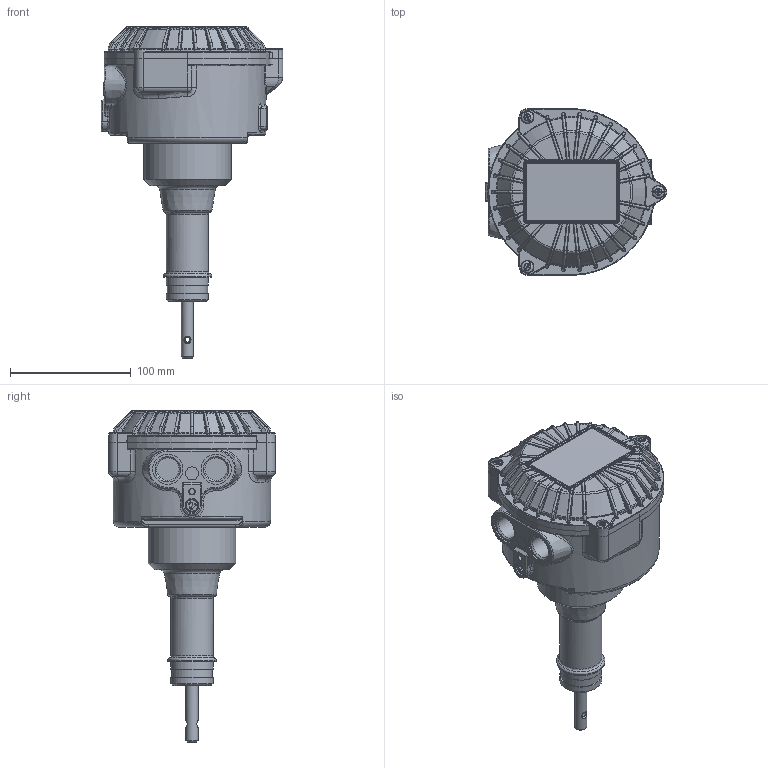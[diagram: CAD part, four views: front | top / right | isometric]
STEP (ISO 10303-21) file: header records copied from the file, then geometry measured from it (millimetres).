
FILE_DESCRIPTION(/* description */ (''),/* implementation_level */ '2;1');
FILE_NAME(/* name */ '\\SRVGEST\camlogic\TEMP\Kulwant S\2_STEP\2_STEP\PFG05\PFG-05.stp',/* time_stamp */ '2021-06-09T17:55:45+02:00',/* author */ ('kulwant.singh'),/* organization */ (''),/* preprocessor_version */ 'ST-DEVELOPER v18.1',/* originating_system */ 'Autodesk Inventor 2022',/* authorisation */ '');
FILE_SCHEMA (('AUTOMOTIVE_DESIGN { 1 0 10303 214 3 1 1 }'));
Products named in the file (1): PFG-05
Bounding box: 150.5 x 138 x 274.7 mm (x, y, z)
Volume: 1498966.8 mm3; surface area: 97546.8 mm2
Topology: 1 solids, 1 shells, 1986 faces, 4632 edges, 2658 vertices
Faces by surface type: bspline 695, cylinder 407, plane 340, torus 229, cone 199, sphere 116
Full cylindrical faces by diameter (mm): 4.134 x1, 4.65 x1, 10 x5, 10.5 x1, 10.75 x1, 10.8 x3, 14.2 x1, 18.631 x2, 23.5 x1, 25 x2, 26 x1, 27 x1, 33.5 x1, 34.8 x3, 40 x1, 72.226 x1
Entity records: 78801 total; most frequent: CARTESIAN_POINT 35627, ORIENTED_EDGE 9234, DIRECTION 7708, EDGE_CURVE 4617, AXIS2_PLACEMENT_3D 3297, VERTEX_POINT 2658, EDGE_LOOP 2015, FACE_OUTER_BOUND 1986
